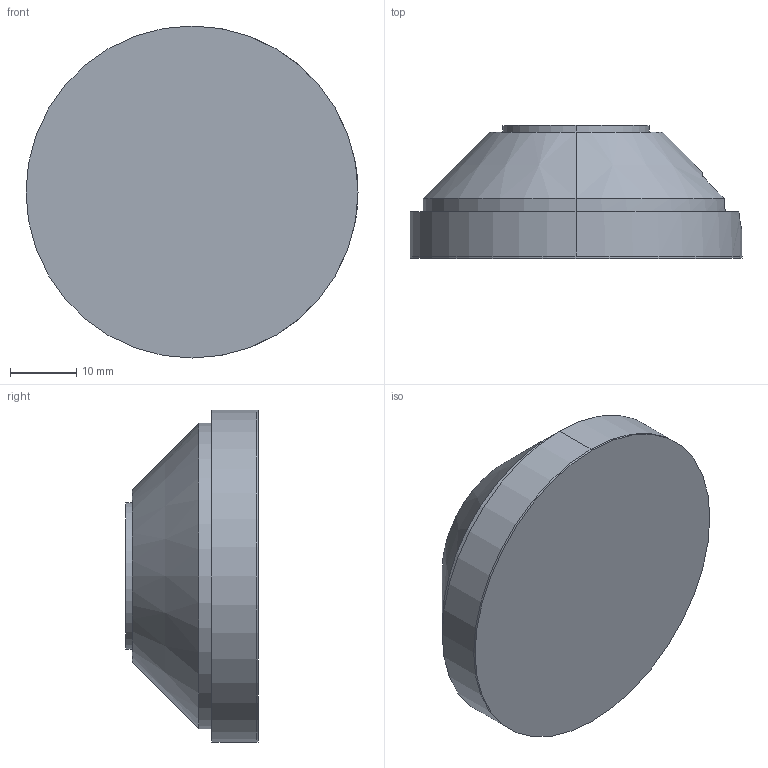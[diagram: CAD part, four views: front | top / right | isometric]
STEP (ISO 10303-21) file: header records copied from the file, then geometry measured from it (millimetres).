
FILE_DESCRIPTION (( 'STEP AP203' ), '1' );
FILE_NAME ('EZ-0053-050 Standardlager Bestell-Nr. 0004005.STEP', '2021-09-16T15:20:15', ( '' ), ( '' ), 'SwSTEP 2.0', 'SolidWorks 2021', '' );
FILE_SCHEMA (( 'CONFIG_CONTROL_DESIGN' ));
Length unit declared in the file: millimetre
Products named in the file (1): EZ-0053-050 Standardlager  Bestell-Nr. 0004005
Bounding box: 50 x 20 x 50 mm (x, y, z)
Volume: 26954.8 mm3; surface area: 10619.9 mm2
Topology: 4 solids, 4 shells, 79 faces, 178 edges, 111 vertices
Faces by surface type: cylinder 34, plane 25, cone 10, torus 8, sphere 2
Entity records: 2395 total; most frequent: CARTESIAN_POINT 487, DIRECTION 424, ORIENTED_EDGE 352, AXIS2_PLACEMENT_3D 178, EDGE_CURVE 176, VERTEX_POINT 111, CIRCLE 98, EDGE_LOOP 89
